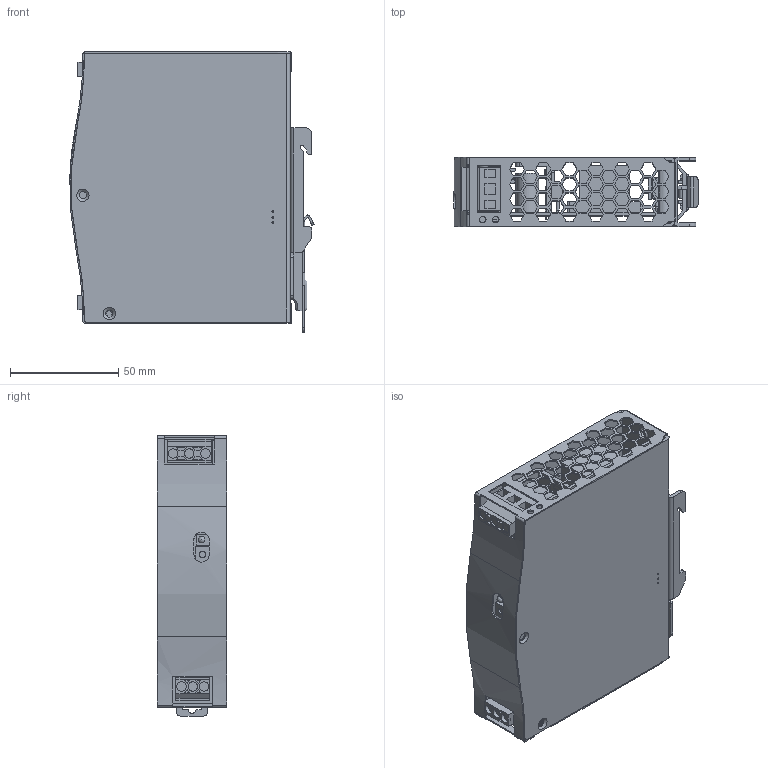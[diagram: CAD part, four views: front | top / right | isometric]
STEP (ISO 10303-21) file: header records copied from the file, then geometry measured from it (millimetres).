
FILE_DESCRIPTION((''),'2;1');
FILE_NAME('C:\Users\shirley\Desktop\DIN RAIL\DDR-120-3D.stp','2020-08-10T16:05:52',('shirley'),(''),'Autodesk Inventor 2010','Autodesk Inventor 2010','');
FILE_SCHEMA(('AUTOMOTIVE_DESIGN { 1 0 10303 214 1 1 1 1 }'));
Length unit declared in the file: millimetre
Products named in the file (30): DDR-120; mylar; PCB; MOS; MOS15.5x10.1.1.1.1.1.1.2.1.1; MOS15.5x10.1.1.1.1.1.1.2.1; pcb2; PCB1; LED; HS2; HS3; gg; VR; hs3; pin.1; uu; a1; ¤ïÊl.1; ¤ïÊl; MOSTO3P.1; p2; p1; a2; ˋ°Ûy; 掛座小; f; p3
Assembly tree (30 placements, depth 4):
  DDR-120
    mylar
    mylar
    PCB
      MOS
        MOS15.5x10.1.1.1.1.1.1.2.1.1
        MOS15.5x10.1.1.1.1.1.1.2.1
      pcb2
      PCB1
      LED
      HS2
      HS3
        gg
      VR
      hs3
        pin.1  x2
        uu
      a1
        ¤ïÊl.1
        ¤ïÊl
        MOSTO3P.1
      p2
      p1
    a2
      (unnamed)
      ˋ°Ûy
      掛座小
        f
        p3
        p1
Bounding box: 112.69 x 32 x 129.21 mm (x, y, z)
Volume: 125037.4 mm3; surface area: 181554.5 mm2
Topology: 23 solids, 23 shells, 1501 faces, 4195 edges, 2782 vertices
Faces by surface type: plane 1162, cylinder 298, cone 21, torus 17, bspline 3
Full cylindrical faces by diameter (mm): 0.927 x6, 1.5 x6, 2.6 x3, 2.65 x9, 3 x4, 3.37 x1, 3.4 x4, 3.5 x5, 3.7 x2, 4 x2, 4.27 x7, 4.3 x6, 6 x2, 10.421 x1, 10.455 x1, 10.5 x1, 10.569 x1
Entity records: 49355 total; most frequent: CARTESIAN_POINT 9355, ORIENTED_EDGE 8086, DIRECTION 7771, EDGE_CURVE 4043, VECTOR 3375, LINE 3375, VERTEX_POINT 2738, AXIS2_PLACEMENT_3D 2198
